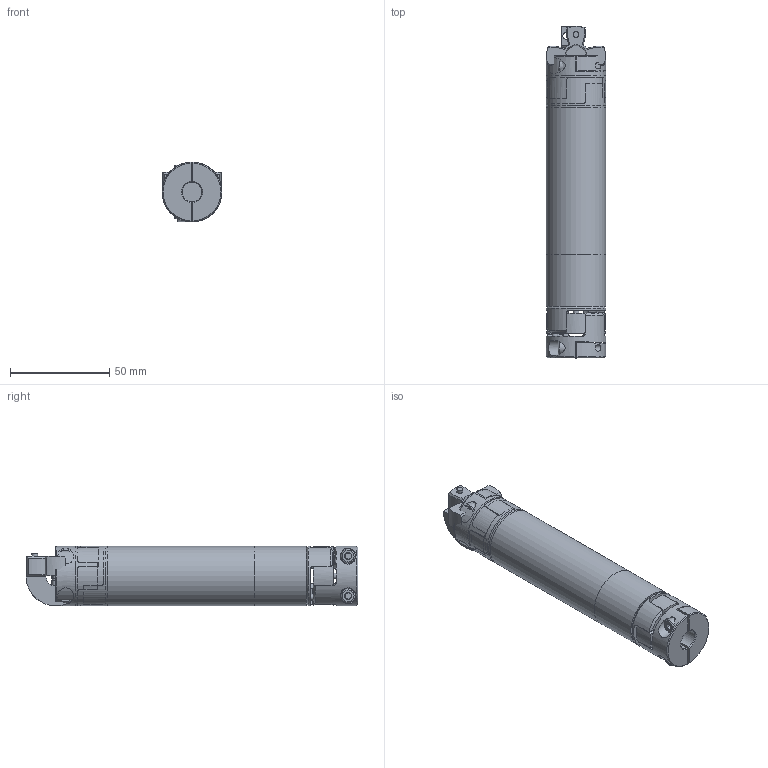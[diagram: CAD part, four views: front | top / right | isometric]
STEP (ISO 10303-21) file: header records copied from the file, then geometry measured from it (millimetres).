
FILE_DESCRIPTION( ( 'Unknown' ), '1' );
FILE_NAME( 'K:/Konstruktion/DRE/DRE14.stp', 'Unknown', ( 'Unknown' ), ( 'Unknown' ), 'XStep 1.0', 'Unknown', ' ' );
FILE_SCHEMA( ( 'automotive_design' ) );
Length unit declared in the file: millimetre
Products named in the file (8): Assem1; Assem2; KBE 2H - 14_Nabe; KBE 2H - 14_Klemme; Zahnkranz_14_Standard; ISO EN DIN 4762 M4x12; R30; Aufnahme R30
Bounding box: 30 x 166.99 x 30 mm (x, y, z)
Volume: 136229.5 mm3; surface area: 68289.7 mm2
Topology: 21 solids, 21 shells, 558 faces, 1286 edges, 815 vertices
Faces by surface type: cylinder 171, plane 169, cone 164, torus 46, bspline 8
Full cylindrical faces by diameter (mm): 3 x12, 3.242 x8, 3.5 x5, 4 x10, 4.5 x8, 7 x5, 10 x10, 15 x7, 20 x5, 30 x9
Entity records: 5365 total; most frequent: CARTESIAN_POINT 1678, DIRECTION 736, ORIENTED_EDGE 636, AXIS2_PLACEMENT_3D 338, EDGE_CURVE 318, VERTEX_POINT 216, EDGE_LOOP 206, FACE_OUTER_BOUND 178
